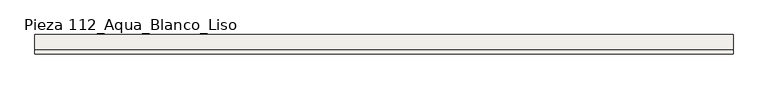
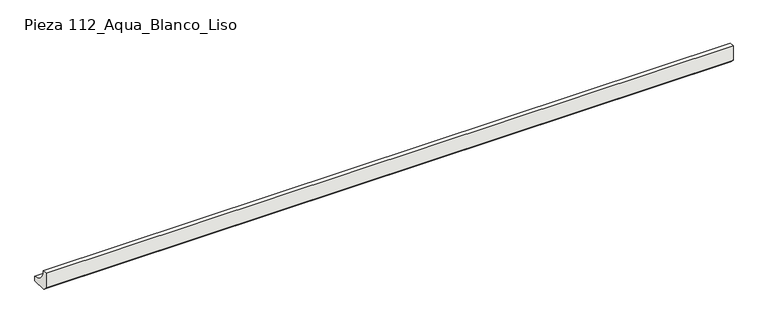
"""IFC4 building model written with IfcOpenShell, lengths in millimetres: slab geometry, ROSA GRES_112 : Pieza 112_Aqua_Blanco_Liso."""

import ifcopenshell
import ifcopenshell.guid

model = None  # the IFC model being written
_history = None  # IfcOwnerHistory: only IFC2X3 demands one
_inside = {}  # id of a spatial element -> (the spatial element, [elements in it])
_under = {}  # id of a project, library or spatial element -> (it, [spatial elements below it])
_declared = {}  # id of a project -> (the project, [libraries it declares])
_typed = {}  # id of a type object -> (the type object, [elements of that type])
_made_of = {}  # id of a material, layer set ... -> (it, [elements and type objects made of it])


def new_model(schema):
    """Start an empty IFC model of exactly this schema.

    Asked for "IFC4X3", IfcOpenShell would pick the latest addendum, in which some entities
    have other attributes; the version numbers below select the first issue.
    IFC2X3 requires an IfcOwnerHistory on every rooted entity: one is made here for all.
    """
    global model, _history
    if schema == "IFC4X3":
        model = ifcopenshell.file(schema_version=(4, 3, 0, 0))
    else:
        model = ifcopenshell.file(schema=schema)
    _inside.clear()
    _under.clear()
    _declared.clear()
    _typed.clear()
    _made_of.clear()
    _history = None
    if model.schema == "IFC2X3":
        org = make("IfcOrganization", Name="unknown")
        user = make(
            "IfcPersonAndOrganization",
            ThePerson=make("IfcPerson", FamilyName="unknown"),
            TheOrganization=org,
        )
        app = make(
            "IfcApplication",
            ApplicationDeveloper=org,
            Version="unknown",
            ApplicationFullName="unknown",
            ApplicationIdentifier="unknown",
        )
        _history = make(
            "IfcOwnerHistory",
            OwningUser=user,
            OwningApplication=app,
            ChangeAction="ADDED",
            CreationDate=0,
        )
    return model


def make(cls, **values):
    """One entity of the class cls with the attributes given. An attribute that is None is left unset."""
    return model.create_entity(
        cls, **{name: value for name, value in values.items() if value is not None}
    )


def rooted(cls, **values):
    """An entity with a GlobalId (a new one), such as an element, a storey or a relation."""
    return make(cls, GlobalId=ifcopenshell.guid.new(), OwnerHistory=_history, **values)


def si_unit(unit_type, name, prefix=None):
    """IfcSIUnit, for example si_unit("LENGTHUNIT", "METRE", prefix="MILLI")."""
    return make("IfcSIUnit", UnitType=unit_type, Prefix=prefix, Name=name)


def assignment(units):
    """IfcUnitAssignment: the units of a project."""
    return None if units is None else make("IfcUnitAssignment", Units=units)


def point(xyz):
    """IfcCartesianPoint."""
    return None if xyz is None else make("IfcCartesianPoint", Coordinates=xyz)


def direction(xyz):
    """IfcDirection."""
    return None if xyz is None else make("IfcDirection", DirectionRatios=xyz)


def frame(location, z_axis=None, x_axis=None):
    """IfcAxis2Placement3D, a coordinate frame: its origin and axes. An axis left out is left unset."""
    return make(
        "IfcAxis2Placement3D",
        Location=point(location),
        Axis=direction(z_axis),
        RefDirection=direction(x_axis),
    )


def frame_2d(location, x_axis=None):
    """IfcAxis2Placement2D, a coordinate frame in the plane: its origin and x axis."""
    return make(
        "IfcAxis2Placement2D", Location=point(location), RefDirection=direction(x_axis)
    )


def origin():
    """The frame at (0, 0, 0) with its axes left unset."""
    return frame((0.0, 0.0, 0.0))


def place(relative_to, where):
    """IfcLocalPlacement: puts the frame where relative to a parent placement (None: the world)."""
    return make(
        "IfcLocalPlacement", PlacementRelTo=relative_to, RelativePlacement=where
    )


def context(
    kind, dimensions, precision=None, world=None, true_north=None, identifier=None
):
    """IfcGeometricRepresentationContext, for example the 3D "Model" context."""
    return make(
        "IfcGeometricRepresentationContext",
        ContextIdentifier=identifier,
        ContextType=kind,
        CoordinateSpaceDimension=dimensions,
        Precision=precision,
        WorldCoordinateSystem=world,
        TrueNorth=true_north,
    )


def project(units=None, contexts=None):
    """IfcProject with its units and contexts."""
    return rooted(
        "IfcProject",
        Name="project",
        RepresentationContexts=contexts,
        UnitsInContext=assignment(units),
    )


def spatial(cls, under=None, at=None, **own):
    """A site, building, storey or space (cls), placed at a placement, below another one or the project."""
    s = rooted(cls, ObjectPlacement=at, **own)
    if under is not None:
        _under.setdefault(under.id(), (under, []))[1].append(s)
    return s


def polyline(points):
    """IfcPolyline through the points."""
    return make("IfcPolyline", Points=[point(p) for p in points])


def circle_curve(where, radius):
    """IfcCircle in the frame where."""
    return make("IfcCircle", Position=where, Radius=radius)


def trimmed(basis, trim1, trim2, sense, master):
    """IfcTrimmedCurve: the piece of a basis curve between two trims."""
    return make(
        "IfcTrimmedCurve",
        BasisCurve=basis,
        Trim1=trim1,
        Trim2=trim2,
        SenseAgreement=sense,
        MasterRepresentation=master,
    )


def segment(curve, same_sense, transition):
    """IfcCompositeCurveSegment."""
    return make(
        "IfcCompositeCurveSegment",
        Transition=transition,
        SameSense=same_sense,
        ParentCurve=curve,
    )


def composite_curve(segments, self_intersect=None):
    """IfcCompositeCurve: segments joined end to end."""
    return make("IfcCompositeCurve", Segments=segments, SelfIntersect=self_intersect)


def outline(outer, holes=None, kind="AREA"):
    """IfcArbitraryClosedProfileDef: a profile drawn as a closed curve; with holes, ...WithVoids."""
    if holes is None:
        return make("IfcArbitraryClosedProfileDef", ProfileType=kind, OuterCurve=outer)
    return make(
        "IfcArbitraryProfileDefWithVoids",
        ProfileType=kind,
        OuterCurve=outer,
        InnerCurves=holes,
    )


def extrude(swept, where, along, depth):
    """IfcExtrudedAreaSolid: the profile swept, set in the frame where, extruded along a direction by depth."""
    return make(
        "IfcExtrudedAreaSolid",
        SweptArea=swept,
        Position=where,
        ExtrudedDirection=direction(along),
        Depth=depth,
    )


def shape(context_of_items, identifier, shape_type, items):
    """IfcShapeRepresentation: the items that make up one representation, for example the "Body"."""
    return make(
        "IfcShapeRepresentation",
        ContextOfItems=context_of_items,
        RepresentationIdentifier=identifier,
        RepresentationType=shape_type,
        Items=items,
    )


def source(mapping_origin, context_of_items, identifier, shape_type, items):
    """IfcRepresentationMap: a shape defined once, which mapped items show again and again."""
    return make(
        "IfcRepresentationMap",
        MappingOrigin=mapping_origin,
        MappedRepresentation=shape(context_of_items, identifier, shape_type, items),
    )


def transform(
    local_origin,
    x_axis=None,
    y_axis=None,
    z_axis=None,
    scale=None,
    scale2=None,
    scale3=None,
    uniform=True,
):
    """IfcCartesianTransformationOperator3D, or its non-uniform kind. x_axis, y_axis, z_axis: its Axis1, 2, 3."""
    if uniform:
        return make(
            "IfcCartesianTransformationOperator3D",
            Axis1=direction(x_axis),
            Axis2=direction(y_axis),
            LocalOrigin=point(local_origin),
            Scale=scale,
            Axis3=direction(z_axis),
        )
    return make(
        "IfcCartesianTransformationOperator3DnonUniform",
        Axis1=direction(x_axis),
        Axis2=direction(y_axis),
        LocalOrigin=point(local_origin),
        Scale=scale,
        Axis3=direction(z_axis),
        Scale2=scale2,
        Scale3=scale3,
    )


def mapped(mapping_source, mapping_target):
    """IfcMappedItem: shows the shape of a source again, moved by a transform."""
    return make(
        "IfcMappedItem", MappingSource=mapping_source, MappingTarget=mapping_target
    )


def made_of(thing, what):
    """Note that an element or type object is made of a material, layer set ...; save() writes the relation."""
    if what is not None:
        _made_of.setdefault(what.id(), (what, []))[1].append(thing)
    return thing


def element(
    cls,
    number,
    at=None,
    inside=None,
    cuts=None,
    type_object=None,
    material=None,
    context=None,
    identifier="Body",
    shape_type=None,
    held_by="IfcProductDefinitionShape",
    body=None,
    shapes=None,
    **own,
):
    """One element of the class cls, such as IfcWall. Its Tag is "e" and its number.

    at: its placement. inside: the storey or other place that contains it. cuts: it is an
    opening in that element (IfcRelVoidsElement). A single representation is given by context,
    identifier, shape_type and body (its items); several are given by shapes. held_by: the class
    of the entity that holds the representations. save() writes the other relations.
    """
    e = rooted(cls, Tag="e%d" % number, ObjectPlacement=at, **own)
    if body is not None:
        shapes = [shape(context, identifier, shape_type, body)]
    if shapes is not None:
        e.Representation = make(held_by, Representations=shapes)
    if inside is not None:
        _inside.setdefault(inside.id(), (inside, []))[1].append(e)
    if cuts is not None:
        rooted(
            "IfcRelVoidsElement", RelatingBuildingElement=cuts, RelatedOpeningElement=e
        )
    if type_object is not None:
        _typed.setdefault(type_object.id(), (type_object, []))[1].append(e)
    return made_of(e, material)


def aggregate(whole, parts):
    """IfcRelAggregates: a whole, such as a stair, and the parts it consists of."""
    return rooted("IfcRelAggregates", RelatingObject=whole, RelatedObjects=parts)


def save(model, path):
    """Write the relations noted so far, then the file.

    IfcRelAggregates (storeys below a building ...), IfcRelContainedInSpatialStructure (elements
    in a storey), IfcRelDefinesByType, IfcRelAssociatesMaterial and IfcRelDeclares: one each for
    every whole, place, type object, material and project.
    """
    for whole, parts in _under.values():
        aggregate(whole, parts)
    for where, things in _inside.values():
        rooted(
            "IfcRelContainedInSpatialStructure",
            RelatedElements=things,
            RelatingStructure=where,
        )
    for kind, things in _typed.values():
        rooted("IfcRelDefinesByType", RelatedObjects=things, RelatingType=kind)
    for what, things in _made_of.values():
        rooted("IfcRelAssociatesMaterial", RelatedObjects=things, RelatingMaterial=what)
    for by, libraries in _declared.values():
        rooted("IfcRelDeclares", RelatingContext=by, RelatedDefinitions=libraries)
    model.write(path)


def pieza_112_aqua_blanco_liso_0f908c38(model_context):
    return source(origin(), model_context, "Body", "SweptSolid", [
        extrude(outline(composite_curve([segment(polyline([(-9.9734114, 8.7114978), (-9.9734114, 40.0), (0.0, 40.0)]), True, "CONTINUOUS"), segment(trimmed(circle_curve(frame_2d((30.0221432, 39.9955547)), 30.0221435), [point((0.0, 40.0))], [point((30.0265886, 9.9734114))], True, "CARTESIAN"), True, "CONTINUOUS"), segment(polyline([(30.0265886, 9.9734114), (30.0265886, 0.0), (-1.2619137, 0.0), (-9.9734114, 8.7114978)]), True, "CONTINUOUS")], self_intersect=False)), frame((0.0, 0.0, 0.0), z_axis=(1.0, 0.0, 0.0), x_axis=(0.0, 1.0, 0.0)), (0.0, 0.0, 1.0), 1430.0),
    ])


if __name__ == "__main__":
    model = new_model("IFC4")
    model_context = context("Model", 3, world=origin())
    ifc_project = project(units=[si_unit("LENGTHUNIT", "METRE", prefix="MILLI")], contexts=[model_context])
    site = spatial("IfcSite", under=ifc_project)
    building = spatial("IfcBuilding", under=site)
    placement = place(None, origin())
    pieza_112_aqua_blanco_liso_shape = pieza_112_aqua_blanco_liso_0f908c38(model_context)
    element("IfcSlab", 1, ObjectType="ROSA GRES_112 : Pieza 112_Aqua_Blanco_Liso", at=placement, inside=building, context=model_context, shape_type="MappedRepresentation", body=[
        mapped(pieza_112_aqua_blanco_liso_shape, transform((0.0, 0.0, 0.0), x_axis=(1.0, 0.0, 0.0), y_axis=(0.0, 1.0, 0.0), z_axis=(0.0, 0.0, 1.0))),
    ])
    save(model, "model.ifc")
